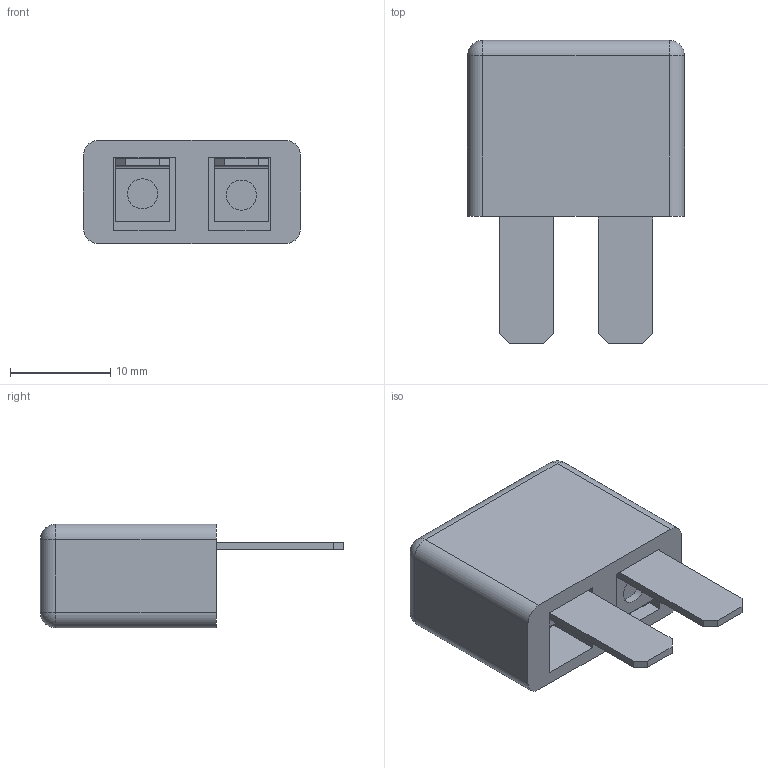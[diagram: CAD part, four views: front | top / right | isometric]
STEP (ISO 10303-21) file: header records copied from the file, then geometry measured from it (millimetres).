
FILE_DESCRIPTION(/* description */ (''),/* implementation_level */ '2;1');
FILE_NAME(/* name */ 'C:\Users\Hani\Desktop\work\MOCB2-PL\MOCB2-PL.stp',/* time_stamp */ '2021-10-15T10:09:25-07:00',/* author */ ('Hani'),/* organization */ (''),/* preprocessor_version */ 'ST-DEVELOPER v17',/* originating_system */ 'Autodesk Inventor 2019',/* authorisation */ '');
FILE_SCHEMA (('AUTOMOTIVE_DESIGN { 1 0 10303 214 3 1 1 }'));
Length unit declared in the file: inch
Products named in the file (1): MOCB2-PL
Bounding box: 21.6 x 30.23 x 10.3 mm (x, y, z)
Volume: 3687.2 mm3; surface area: 2086.9 mm2
Topology: 1 solids, 1 shells, 188 faces, 492 edges, 324 vertices
Faces by surface type: plane 105, bspline 67, cylinder 12, sphere 4
Full cylindrical faces by diameter (mm): 2.997 x1, 3 x1
Entity records: 6337 total; most frequent: CARTESIAN_POINT 2090, ORIENTED_EDGE 984, DIRECTION 626, EDGE_CURVE 492, LINE 334, VECTOR 334, VERTEX_POINT 324, EDGE_LOOP 206
